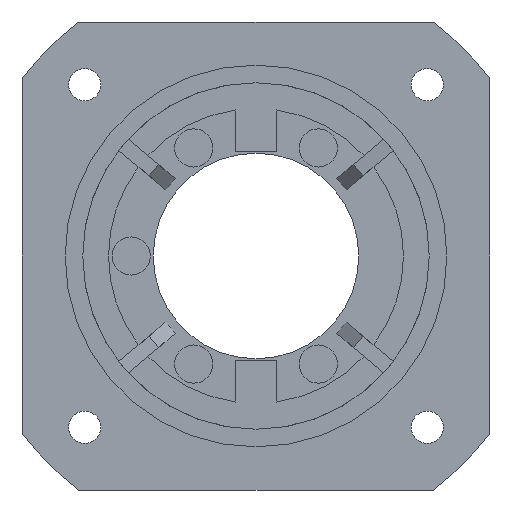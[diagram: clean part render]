
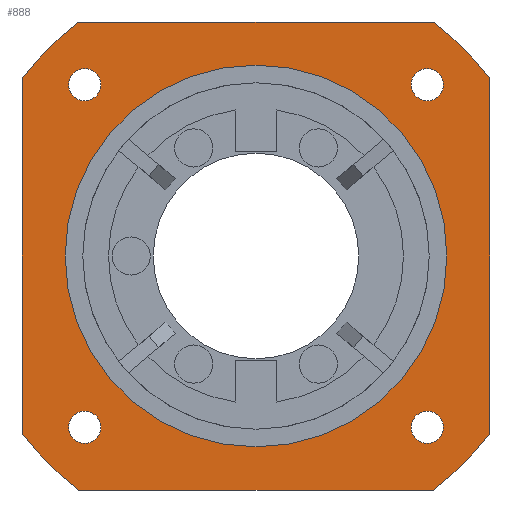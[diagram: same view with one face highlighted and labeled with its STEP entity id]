
A CAD part, left-side view. The second image highlights one B-rep face of the part: STEP entity #888.
In plain terms, the highlighted planar face has unit normal (-1, 0, 0).
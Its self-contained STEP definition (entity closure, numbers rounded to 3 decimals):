
#22=FACE_BOUND('',#1103,.T.);
#23=FACE_BOUND('',#1104,.T.);
#24=FACE_BOUND('',#1105,.T.);
#25=FACE_BOUND('',#1106,.T.);
#26=FACE_BOUND('',#1107,.T.);
#888=ADVANCED_FACE('',(#991,#22,#23,#24,#25,#26),#2698,.T.);
#991=FACE_OUTER_BOUND('',#1102,.T.);
#1102=EDGE_LOOP('',(#1380,#1381,#1382,#1383,#1384,#1385,#1386,#1387));
#1103=EDGE_LOOP('',(#1388,#1389));
#1104=EDGE_LOOP('',(#1390,#1391));
#1105=EDGE_LOOP('',(#1392,#1393));
#1106=EDGE_LOOP('',(#1394,#1395));
#1107=EDGE_LOOP('',(#1396,#1397));
#1380=ORIENTED_EDGE('',*,*,#1899,.F.);
#1381=ORIENTED_EDGE('',*,*,#1866,.T.);
#1382=ORIENTED_EDGE('',*,*,#1870,.F.);
#1383=ORIENTED_EDGE('',*,*,#1873,.T.);
#1384=ORIENTED_EDGE('',*,*,#1876,.F.);
#1385=ORIENTED_EDGE('',*,*,#1879,.T.);
#1386=ORIENTED_EDGE('',*,*,#1882,.F.);
#1387=ORIENTED_EDGE('',*,*,#1885,.T.);
#1388=ORIENTED_EDGE('',*,*,#1895,.T.);
#1389=ORIENTED_EDGE('',*,*,#2027,.T.);
#1390=ORIENTED_EDGE('',*,*,#1892,.T.);
#1391=ORIENTED_EDGE('',*,*,#2024,.T.);
#1392=ORIENTED_EDGE('',*,*,#1889,.T.);
#1393=ORIENTED_EDGE('',*,*,#2021,.T.);
#1394=ORIENTED_EDGE('',*,*,#1886,.T.);
#1395=ORIENTED_EDGE('',*,*,#2018,.T.);
#1396=ORIENTED_EDGE('',*,*,#1905,.T.);
#1397=ORIENTED_EDGE('',*,*,#2031,.T.);
#1866=EDGE_CURVE('',#2556,#2555,#2334,.T.);
#1870=EDGE_CURVE('',#2558,#2555,#2095,.T.);
#1873=EDGE_CURVE('',#2558,#2560,#2339,.T.);
#1876=EDGE_CURVE('',#2562,#2560,#2097,.T.);
#1879=EDGE_CURVE('',#2562,#2564,#2343,.T.);
#1882=EDGE_CURVE('',#2566,#2564,#2099,.T.);
#1885=EDGE_CURVE('',#2566,#2568,#2347,.T.);
#1886=EDGE_CURVE('',#2569,#2620,#2100,.T.);
#1889=EDGE_CURVE('',#2571,#2622,#2102,.T.);
#1892=EDGE_CURVE('',#2573,#2624,#2104,.T.);
#1895=EDGE_CURVE('',#2575,#2626,#2106,.T.);
#1899=EDGE_CURVE('',#2556,#2568,#2109,.T.);
#1905=EDGE_CURVE('',#2577,#2628,#2111,.T.);
#2018=EDGE_CURVE('',#2620,#2569,#2140,.T.);
#2021=EDGE_CURVE('',#2622,#2571,#2142,.T.);
#2024=EDGE_CURVE('',#2624,#2573,#2144,.T.);
#2027=EDGE_CURVE('',#2626,#2575,#2146,.T.);
#2031=EDGE_CURVE('',#2628,#2577,#2149,.T.);
#2095=TRIMMED_CURVE($,#2203,(#4016),(#4017),.T.,.CARTESIAN.);
#2097=TRIMMED_CURVE($,#2205,(#4030),(#4031),.T.,.CARTESIAN.);
#2099=TRIMMED_CURVE($,#2207,(#4044),(#4045),.T.,.CARTESIAN.);
#2100=TRIMMED_CURVE($,#2208,(#4053),(#4054),.T.,.CARTESIAN.);
#2102=TRIMMED_CURVE($,#2210,(#4061),(#4062),.T.,.CARTESIAN.);
#2104=TRIMMED_CURVE($,#2212,(#4069),(#4070),.T.,.CARTESIAN.);
#2106=TRIMMED_CURVE($,#2214,(#4077),(#4078),.T.,.CARTESIAN.);
#2109=TRIMMED_CURVE($,#2217,(#4088),(#4089),.T.,.CARTESIAN.);
#2111=TRIMMED_CURVE($,#2219,(#4102),(#4103),.T.,.CARTESIAN.);
#2140=TRIMMED_CURVE($,#2248,(#4405),(#4406),.T.,.CARTESIAN.);
#2142=TRIMMED_CURVE($,#2250,(#4413),(#4414),.T.,.CARTESIAN.);
#2144=TRIMMED_CURVE($,#2252,(#4421),(#4422),.T.,.CARTESIAN.);
#2146=TRIMMED_CURVE($,#2254,(#4429),(#4430),.T.,.CARTESIAN.);
#2149=TRIMMED_CURVE($,#2257,(#4440),(#4441),.T.,.CARTESIAN.);
#2203=CIRCLE('',#2971,100.);
#2205=CIRCLE('',#2973,100.);
#2207=CIRCLE('',#2975,100.);
#2208=CIRCLE('',#2976,5.5);
#2210=CIRCLE('',#2978,5.5);
#2212=CIRCLE('',#2980,5.5);
#2214=CIRCLE('',#2982,5.5);
#2217=CIRCLE('',#2985,100.);
#2219=CIRCLE('',#2987,65.);
#2248=CIRCLE('',#3016,5.5);
#2250=CIRCLE('',#3018,5.5);
#2252=CIRCLE('',#3020,5.5);
#2254=CIRCLE('',#3022,5.5);
#2257=CIRCLE('',#3025,65.);
#2334=B_SPLINE_CURVE_WITH_KNOTS('',1,(#4006,#4007),.UNSPECIFIED.,.F.,.F.,
(2,2),(-120.834,0.),.UNSPECIFIED.);
#2339=B_SPLINE_CURVE_WITH_KNOTS('',1,(#4022,#4023),.UNSPECIFIED.,.F.,.F.,
(2,2),(-120.834,0.),.UNSPECIFIED.);
#2343=B_SPLINE_CURVE_WITH_KNOTS('',1,(#4036,#4037),.UNSPECIFIED.,.F.,.F.,
(2,2),(-120.834,0.),.UNSPECIFIED.);
#2347=B_SPLINE_CURVE_WITH_KNOTS('',1,(#4050,#4051),.UNSPECIFIED.,.F.,.F.,
(2,2),(-120.834,0.),.UNSPECIFIED.);
#2555=VERTEX_POINT('',#3671);
#2556=VERTEX_POINT('',#3672);
#2558=VERTEX_POINT('',#3674);
#2560=VERTEX_POINT('',#3676);
#2562=VERTEX_POINT('',#3678);
#2564=VERTEX_POINT('',#3680);
#2566=VERTEX_POINT('',#3682);
#2568=VERTEX_POINT('',#3684);
#2569=VERTEX_POINT('',#3685);
#2571=VERTEX_POINT('',#3687);
#2573=VERTEX_POINT('',#3689);
#2575=VERTEX_POINT('',#3691);
#2577=VERTEX_POINT('',#3693);
#2620=VERTEX_POINT('',#3736);
#2622=VERTEX_POINT('',#3738);
#2624=VERTEX_POINT('',#3740);
#2626=VERTEX_POINT('',#3742);
#2628=VERTEX_POINT('',#3744);
#2698=PLANE('',#2863);
#2863=AXIS2_PLACEMENT_3D('',#3387,#3071,$);
#2971=AXIS2_PLACEMENT_3D($,#4015,#3220,#3221);
#2973=AXIS2_PLACEMENT_3D($,#4029,#3224,#3225);
#2975=AXIS2_PLACEMENT_3D($,#4043,#3228,#3229);
#2976=AXIS2_PLACEMENT_3D($,#4052,#3230,#3231);
#2978=AXIS2_PLACEMENT_3D($,#4060,#3234,#3235);
#2980=AXIS2_PLACEMENT_3D($,#4068,#3238,#3239);
#2982=AXIS2_PLACEMENT_3D($,#4076,#3242,#3243);
#2985=AXIS2_PLACEMENT_3D($,#4087,#3248,#3249);
#2987=AXIS2_PLACEMENT_3D($,#4101,#3252,#3253);
#3016=AXIS2_PLACEMENT_3D($,#4404,#3310,#3311);
#3018=AXIS2_PLACEMENT_3D($,#4412,#3314,#3315);
#3020=AXIS2_PLACEMENT_3D($,#4420,#3318,#3319);
#3022=AXIS2_PLACEMENT_3D($,#4428,#3322,#3323);
#3025=AXIS2_PLACEMENT_3D($,#4439,#3328,#3329);
#3071=DIRECTION('',(-1.,0.,0.));
#3220=DIRECTION('',(1.,0.,0.));
#3221=DIRECTION('',(0.,-0.797,-0.604));
#3224=DIRECTION('',(1.,0.,0.));
#3225=DIRECTION('',(0.,-0.604,0.797));
#3228=DIRECTION('',(1.,0.,0.));
#3229=DIRECTION('',(0.,0.797,0.604));
#3230=DIRECTION('',(1.,0.,0.));
#3231=DIRECTION('',(0.,0.,1.));
#3234=DIRECTION('',(1.,0.,0.));
#3235=DIRECTION('',(0.,0.,1.));
#3238=DIRECTION('',(1.,0.,0.));
#3239=DIRECTION('',(0.,0.,1.));
#3242=DIRECTION('',(1.,0.,0.));
#3243=DIRECTION('',(0.,0.,1.));
#3248=DIRECTION('',(1.,0.,0.));
#3249=DIRECTION('',(0.,0.604,-0.797));
#3252=DIRECTION('',(1.,0.,0.));
#3253=DIRECTION('',(0.,0.,1.));
#3310=DIRECTION('',(1.,0.,0.));
#3311=DIRECTION('',(0.,0.,-1.));
#3314=DIRECTION('',(1.,0.,0.));
#3315=DIRECTION('',(0.,0.,-1.));
#3318=DIRECTION('',(1.,0.,0.));
#3319=DIRECTION('',(0.,0.,-1.));
#3322=DIRECTION('',(1.,0.,0.));
#3323=DIRECTION('',(0.,0.,-1.));
#3328=DIRECTION('',(1.,0.,0.));
#3329=DIRECTION('',(0.,0.,-1.));
#3387=CARTESIAN_POINT('',(-150.,-86.423,-95.623));
#3671=CARTESIAN_POINT('',(-150.,-51.217,-79.686));
#3672=CARTESIAN_POINT('',(-150.,69.617,-79.686));
#3674=CARTESIAN_POINT('',(-150.,-70.486,-60.417));
#3676=CARTESIAN_POINT('',(-150.,-70.486,60.417));
#3678=CARTESIAN_POINT('',(-150.,-51.217,79.685));
#3680=CARTESIAN_POINT('',(-150.,69.617,79.686));
#3682=CARTESIAN_POINT('',(-150.,88.886,60.417));
#3684=CARTESIAN_POINT('',(-150.,88.886,-60.417));
#3685=CARTESIAN_POINT('',(-150.,67.536,63.837));
#3687=CARTESIAN_POINT('',(-150.,-49.137,63.837));
#3689=CARTESIAN_POINT('',(-150.,67.536,-52.836));
#3691=CARTESIAN_POINT('',(-150.,-49.137,-52.836));
#3693=CARTESIAN_POINT('',(-150.,9.2,65.));
#3736=CARTESIAN_POINT('',(-150.,67.536,52.837));
#3738=CARTESIAN_POINT('',(-150.,-49.137,52.837));
#3740=CARTESIAN_POINT('',(-150.,67.536,-63.836));
#3742=CARTESIAN_POINT('',(-150.,-49.137,-63.836));
#3744=CARTESIAN_POINT('',(-150.,9.2,-65.));
#4006=CARTESIAN_POINT('',(-150.,69.617,-79.686));
#4007=CARTESIAN_POINT('',(-150.,-51.217,-79.686));
#4015=CARTESIAN_POINT('',(-150.,9.2,0.));
#4016=CARTESIAN_POINT('',(-150.,-70.486,-60.417));
#4017=CARTESIAN_POINT('',(-150.,-51.217,-79.686));
#4022=CARTESIAN_POINT('',(-150.,-70.486,-60.417));
#4023=CARTESIAN_POINT('',(-150.,-70.486,60.417));
#4029=CARTESIAN_POINT('',(-150.,9.2,0.));
#4030=CARTESIAN_POINT('',(-150.,-51.217,79.685));
#4031=CARTESIAN_POINT('',(-150.,-70.486,60.417));
#4036=CARTESIAN_POINT('',(-150.,-51.217,79.685));
#4037=CARTESIAN_POINT('',(-150.,69.617,79.686));
#4043=CARTESIAN_POINT('',(-150.,9.2,0.));
#4044=CARTESIAN_POINT('',(-150.,88.886,60.417));
#4045=CARTESIAN_POINT('',(-150.,69.617,79.686));
#4050=CARTESIAN_POINT('',(-150.,88.886,60.417));
#4051=CARTESIAN_POINT('',(-150.,88.886,-60.417));
#4052=CARTESIAN_POINT('',(-150.,67.536,58.337));
#4053=CARTESIAN_POINT('',(-150.,67.536,63.837));
#4054=CARTESIAN_POINT('',(-150.,67.536,52.837));
#4060=CARTESIAN_POINT('',(-150.,-49.137,58.337));
#4061=CARTESIAN_POINT('',(-150.,-49.137,63.837));
#4062=CARTESIAN_POINT('',(-150.,-49.137,52.837));
#4068=CARTESIAN_POINT('',(-150.,67.536,-58.336));
#4069=CARTESIAN_POINT('',(-150.,67.536,-52.836));
#4070=CARTESIAN_POINT('',(-150.,67.536,-63.836));
#4076=CARTESIAN_POINT('',(-150.,-49.137,-58.336));
#4077=CARTESIAN_POINT('',(-150.,-49.137,-52.836));
#4078=CARTESIAN_POINT('',(-150.,-49.137,-63.836));
#4087=CARTESIAN_POINT('',(-150.,9.2,0.));
#4088=CARTESIAN_POINT('',(-150.,69.617,-79.686));
#4089=CARTESIAN_POINT('',(-150.,88.886,-60.417));
#4101=CARTESIAN_POINT('',(-150.,9.2,0.));
#4102=CARTESIAN_POINT('',(-150.,9.2,65.));
#4103=CARTESIAN_POINT('',(-150.,9.2,-65.));
#4404=CARTESIAN_POINT('',(-150.,67.536,58.337));
#4405=CARTESIAN_POINT('',(-150.,67.536,52.837));
#4406=CARTESIAN_POINT('',(-150.,67.536,63.837));
#4412=CARTESIAN_POINT('',(-150.,-49.137,58.337));
#4413=CARTESIAN_POINT('',(-150.,-49.137,52.837));
#4414=CARTESIAN_POINT('',(-150.,-49.137,63.837));
#4420=CARTESIAN_POINT('',(-150.,67.536,-58.336));
#4421=CARTESIAN_POINT('',(-150.,67.536,-63.836));
#4422=CARTESIAN_POINT('',(-150.,67.536,-52.836));
#4428=CARTESIAN_POINT('',(-150.,-49.137,-58.336));
#4429=CARTESIAN_POINT('',(-150.,-49.137,-63.836));
#4430=CARTESIAN_POINT('',(-150.,-49.137,-52.836));
#4439=CARTESIAN_POINT('',(-150.,9.2,0.));
#4440=CARTESIAN_POINT('',(-150.,9.2,-65.));
#4441=CARTESIAN_POINT('',(-150.,9.2,65.));
